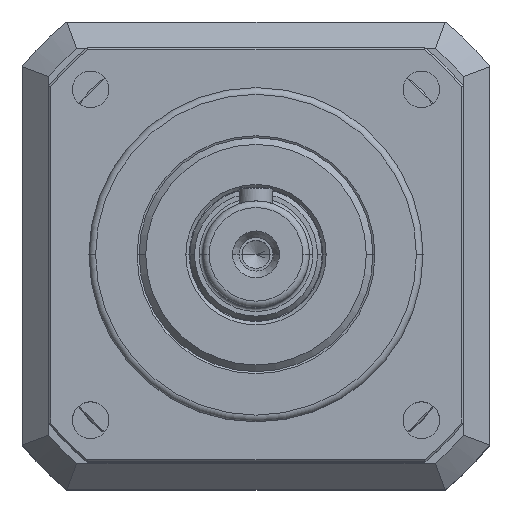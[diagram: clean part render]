
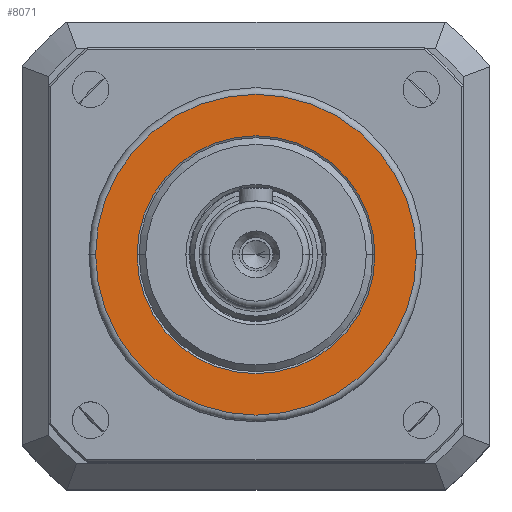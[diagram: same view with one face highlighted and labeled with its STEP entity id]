
A CAD part, top view. The second image highlights one B-rep face of the part: STEP entity #8071.
In plain terms, the highlighted planar face has unit normal (0, 0, 1).
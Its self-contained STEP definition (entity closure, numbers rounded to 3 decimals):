
#1111 = VERTEX_POINT ( 'NONE', #2413 ) ;
#1367 = AXIS2_PLACEMENT_3D ( 'NONE', #11589, #14797, #14396 ) ;
#1681 = EDGE_LOOP ( 'NONE', ( #6206, #4138 ) ) ;
#1948 = EDGE_CURVE ( 'NONE', #3400, #16388, #10686, .T. ) ;
#2413 = CARTESIAN_POINT ( 'NONE',  ( -24., 0., 7. ) ) ;
#2498 = AXIS2_PLACEMENT_3D ( 'NONE', #16774, #17062, #3082 ) ;
#2726 = DIRECTION ( 'NONE',  ( 0., 0., 1. ) ) ;
#3012 = CARTESIAN_POINT ( 'NONE',  ( 0., 0., 7. ) ) ;
#3082 = DIRECTION ( 'NONE',  ( 1., 0., 0. ) ) ;
#3400 = VERTEX_POINT ( 'NONE', #5416 ) ;
#3451 = AXIS2_PLACEMENT_3D ( 'NONE', #9246, #15268, #14051 ) ;
#4138 = ORIENTED_EDGE ( 'NONE', *, *, #1948, .T. ) ;
#5416 = CARTESIAN_POINT ( 'NONE',  ( -17.8, 0., 7. ) ) ;
#5756 = CARTESIAN_POINT ( 'NONE',  ( 24., 0., 7. ) ) ;
#5839 = DIRECTION ( 'NONE',  ( 0., 0., 1. ) ) ;
#5937 = FACE_BOUND ( 'NONE', #1681, .T. ) ;
#6206 = ORIENTED_EDGE ( 'NONE', *, *, #17851, .T. ) ;
#6376 = CIRCLE ( 'NONE', #9275, 24. ) ;
#6438 = CARTESIAN_POINT ( 'NONE',  ( 17.8, 0., 7. ) ) ;
#6545 = EDGE_CURVE ( 'NONE', #1111, #17490, #6376, .T. ) ;
#8071 = ADVANCED_FACE ( 'NONE', ( #5937, #9174 ), #16594, .T. ) ;
#8366 = ORIENTED_EDGE ( 'NONE', *, *, #17874, .T. ) ;
#9174 = FACE_OUTER_BOUND ( 'NONE', #11062, .T. ) ;
#9190 = DIRECTION ( 'NONE',  ( 1., 0., 0. ) ) ;
#9246 = CARTESIAN_POINT ( 'NONE',  ( 0., 0., 7. ) ) ;
#9275 = AXIS2_PLACEMENT_3D ( 'NONE', #12202, #2726, #9190 ) ;
#9958 = ORIENTED_EDGE ( 'NONE', *, *, #6545, .T. ) ;
#10576 = DIRECTION ( 'NONE',  ( 1., 0., 0. ) ) ;
#10686 = CIRCLE ( 'NONE', #1367, 17.8 ) ;
#11062 = EDGE_LOOP ( 'NONE', ( #8366, #9958 ) ) ;
#11589 = CARTESIAN_POINT ( 'NONE',  ( 0., 0., 7. ) ) ;
#12202 = CARTESIAN_POINT ( 'NONE',  ( 0., 0., 7. ) ) ;
#13755 = CIRCLE ( 'NONE', #3451, 24. ) ;
#14051 = DIRECTION ( 'NONE',  ( 1., 0., 0. ) ) ;
#14396 = DIRECTION ( 'NONE',  ( 1., 0., 0. ) ) ;
#14797 = DIRECTION ( 'NONE',  ( 0., 0., -1. ) ) ;
#15268 = DIRECTION ( 'NONE',  ( 0., 0., 1. ) ) ;
#15343 = CIRCLE ( 'NONE', #2498, 17.8 ) ;
#16388 = VERTEX_POINT ( 'NONE', #6438 ) ;
#16594 = PLANE ( 'NONE',  #18725 ) ;
#16774 = CARTESIAN_POINT ( 'NONE',  ( 0., 0., 7. ) ) ;
#17062 = DIRECTION ( 'NONE',  ( 0., 0., -1. ) ) ;
#17490 = VERTEX_POINT ( 'NONE', #5756 ) ;
#17851 = EDGE_CURVE ( 'NONE', #16388, #3400, #15343, .T. ) ;
#17874 = EDGE_CURVE ( 'NONE', #17490, #1111, #13755, .T. ) ;
#18725 = AXIS2_PLACEMENT_3D ( 'NONE', #3012, #5839, #10576 ) ;
